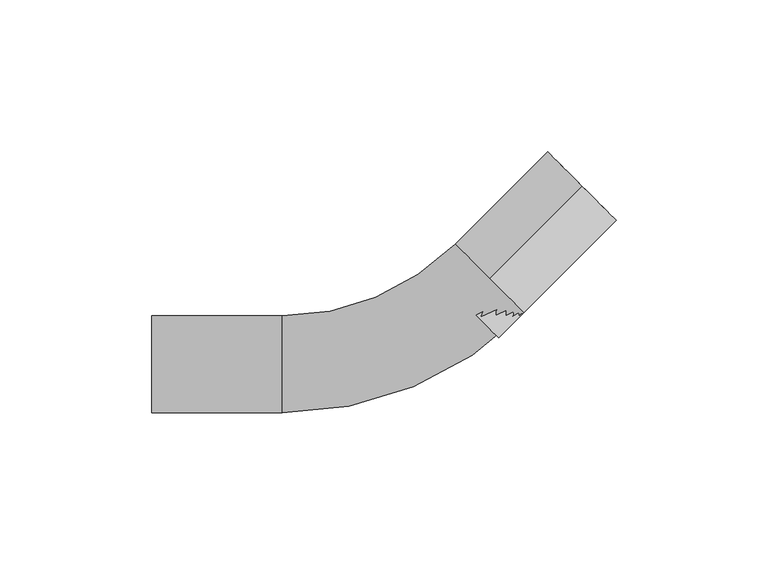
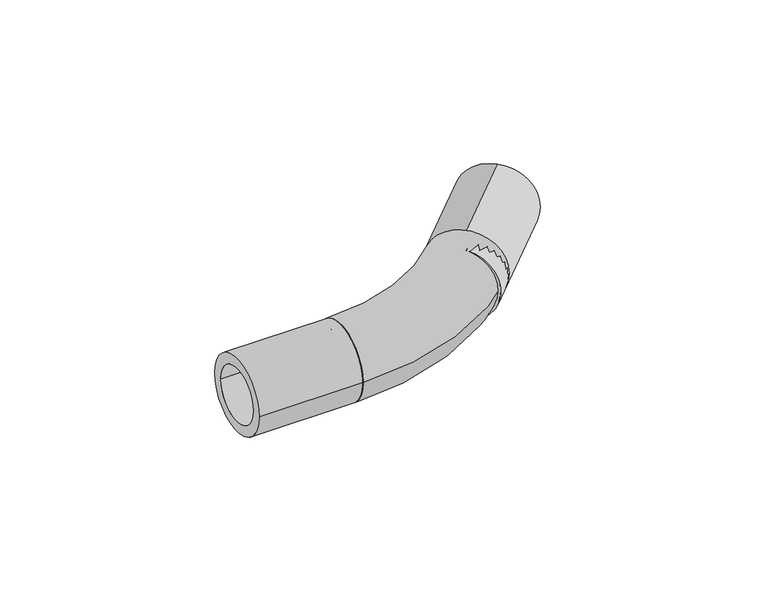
"""IFC4 building model written with IfcOpenShell, lengths in millimetres: pipe fitting geometry, REHAU_RAUTITAN_Pipe bend with former : REHAU_RAUTITAN_Pipe bend with former."""

import ifcopenshell
import ifcopenshell.guid

model = None  # the IFC model being written
_history = None  # IfcOwnerHistory: only IFC2X3 demands one
_inside = {}  # id of a spatial element -> (the spatial element, [elements in it])
_under = {}  # id of a project, library or spatial element -> (it, [spatial elements below it])
_declared = {}  # id of a project -> (the project, [libraries it declares])
_typed = {}  # id of a type object -> (the type object, [elements of that type])
_made_of = {}  # id of a material, layer set ... -> (it, [elements and type objects made of it])


def new_model(schema):
    """Start an empty IFC model of exactly this schema.

    Asked for "IFC4X3", IfcOpenShell would pick the latest addendum, in which some entities
    have other attributes; the version numbers below select the first issue.
    IFC2X3 requires an IfcOwnerHistory on every rooted entity: one is made here for all.
    """
    global model, _history
    if schema == "IFC4X3":
        model = ifcopenshell.file(schema_version=(4, 3, 0, 0))
    else:
        model = ifcopenshell.file(schema=schema)
    _inside.clear()
    _under.clear()
    _declared.clear()
    _typed.clear()
    _made_of.clear()
    _history = None
    if model.schema == "IFC2X3":
        org = make("IfcOrganization", Name="unknown")
        user = make(
            "IfcPersonAndOrganization",
            ThePerson=make("IfcPerson", FamilyName="unknown"),
            TheOrganization=org,
        )
        app = make(
            "IfcApplication",
            ApplicationDeveloper=org,
            Version="unknown",
            ApplicationFullName="unknown",
            ApplicationIdentifier="unknown",
        )
        _history = make(
            "IfcOwnerHistory",
            OwningUser=user,
            OwningApplication=app,
            ChangeAction="ADDED",
            CreationDate=0,
        )
    return model


def make(cls, **values):
    """One entity of the class cls with the attributes given. An attribute that is None is left unset."""
    return model.create_entity(
        cls, **{name: value for name, value in values.items() if value is not None}
    )


def rooted(cls, **values):
    """An entity with a GlobalId (a new one), such as an element, a storey or a relation."""
    return make(cls, GlobalId=ifcopenshell.guid.new(), OwnerHistory=_history, **values)


def si_unit(unit_type, name, prefix=None):
    """IfcSIUnit, for example si_unit("LENGTHUNIT", "METRE", prefix="MILLI")."""
    return make("IfcSIUnit", UnitType=unit_type, Prefix=prefix, Name=name)


def assignment(units):
    """IfcUnitAssignment: the units of a project."""
    return None if units is None else make("IfcUnitAssignment", Units=units)


def point(xyz):
    """IfcCartesianPoint."""
    return None if xyz is None else make("IfcCartesianPoint", Coordinates=xyz)


def direction(xyz):
    """IfcDirection."""
    return None if xyz is None else make("IfcDirection", DirectionRatios=xyz)


def frame(location, z_axis=None, x_axis=None):
    """IfcAxis2Placement3D, a coordinate frame: its origin and axes. An axis left out is left unset."""
    return make(
        "IfcAxis2Placement3D",
        Location=point(location),
        Axis=direction(z_axis),
        RefDirection=direction(x_axis),
    )


def frame_2d(location, x_axis=None):
    """IfcAxis2Placement2D, a coordinate frame in the plane: its origin and x axis."""
    return make(
        "IfcAxis2Placement2D", Location=point(location), RefDirection=direction(x_axis)
    )


def origin():
    """The frame at (0, 0, 0) with its axes left unset."""
    return frame((0.0, 0.0, 0.0))


def origin_2d():
    """The frame at (0, 0) in the plane with its x axis left unset."""
    return frame_2d((0.0, 0.0))


def place(relative_to, where):
    """IfcLocalPlacement: puts the frame where relative to a parent placement (None: the world)."""
    return make(
        "IfcLocalPlacement", PlacementRelTo=relative_to, RelativePlacement=where
    )


def context(
    kind, dimensions, precision=None, world=None, true_north=None, identifier=None
):
    """IfcGeometricRepresentationContext, for example the 3D "Model" context."""
    return make(
        "IfcGeometricRepresentationContext",
        ContextIdentifier=identifier,
        ContextType=kind,
        CoordinateSpaceDimension=dimensions,
        Precision=precision,
        WorldCoordinateSystem=world,
        TrueNorth=true_north,
    )


def project(units=None, contexts=None):
    """IfcProject with its units and contexts."""
    return rooted(
        "IfcProject",
        Name="project",
        RepresentationContexts=contexts,
        UnitsInContext=assignment(units),
    )


def spatial(cls, under=None, at=None, **own):
    """A site, building, storey or space (cls), placed at a placement, below another one or the project."""
    s = rooted(cls, ObjectPlacement=at, **own)
    if under is not None:
        _under.setdefault(under.id(), (under, []))[1].append(s)
    return s


def circle_curve(where, radius):
    """IfcCircle in the frame where."""
    return make("IfcCircle", Position=where, Radius=radius)


def ellipse_curve(where, semi_axis1, semi_axis2):
    """IfcEllipse in the frame where."""
    return make(
        "IfcEllipse", Position=where, SemiAxis1=semi_axis1, SemiAxis2=semi_axis2
    )


def trimmed(basis, trim1, trim2, sense, master):
    """IfcTrimmedCurve: the piece of a basis curve between two trims."""
    return make(
        "IfcTrimmedCurve",
        BasisCurve=basis,
        Trim1=trim1,
        Trim2=trim2,
        SenseAgreement=sense,
        MasterRepresentation=master,
    )


def segment(curve, same_sense, transition):
    """IfcCompositeCurveSegment."""
    return make(
        "IfcCompositeCurveSegment",
        Transition=transition,
        SameSense=same_sense,
        ParentCurve=curve,
    )


def composite_curve(segments, self_intersect=None):
    """IfcCompositeCurve: segments joined end to end."""
    return make("IfcCompositeCurve", Segments=segments, SelfIntersect=self_intersect)


def outline(outer, holes=None, kind="AREA"):
    """IfcArbitraryClosedProfileDef: a profile drawn as a closed curve; with holes, ...WithVoids."""
    if holes is None:
        return make("IfcArbitraryClosedProfileDef", ProfileType=kind, OuterCurve=outer)
    return make(
        "IfcArbitraryProfileDefWithVoids",
        ProfileType=kind,
        OuterCurve=outer,
        InnerCurves=holes,
    )


def extrude(swept, where, along, depth):
    """IfcExtrudedAreaSolid: the profile swept, set in the frame where, extruded along a direction by depth."""
    return make(
        "IfcExtrudedAreaSolid",
        SweptArea=swept,
        Position=where,
        ExtrudedDirection=direction(along),
        Depth=depth,
    )


def shape(context_of_items, identifier, shape_type, items):
    """IfcShapeRepresentation: the items that make up one representation, for example the "Body"."""
    return make(
        "IfcShapeRepresentation",
        ContextOfItems=context_of_items,
        RepresentationIdentifier=identifier,
        RepresentationType=shape_type,
        Items=items,
    )


def source(mapping_origin, context_of_items, identifier, shape_type, items):
    """IfcRepresentationMap: a shape defined once, which mapped items show again and again."""
    return make(
        "IfcRepresentationMap",
        MappingOrigin=mapping_origin,
        MappedRepresentation=shape(context_of_items, identifier, shape_type, items),
    )


def transform(
    local_origin,
    x_axis=None,
    y_axis=None,
    z_axis=None,
    scale=None,
    scale2=None,
    scale3=None,
    uniform=True,
):
    """IfcCartesianTransformationOperator3D, or its non-uniform kind. x_axis, y_axis, z_axis: its Axis1, 2, 3."""
    if uniform:
        return make(
            "IfcCartesianTransformationOperator3D",
            Axis1=direction(x_axis),
            Axis2=direction(y_axis),
            LocalOrigin=point(local_origin),
            Scale=scale,
            Axis3=direction(z_axis),
        )
    return make(
        "IfcCartesianTransformationOperator3DnonUniform",
        Axis1=direction(x_axis),
        Axis2=direction(y_axis),
        LocalOrigin=point(local_origin),
        Scale=scale,
        Axis3=direction(z_axis),
        Scale2=scale2,
        Scale3=scale3,
    )


def mapped(mapping_source, mapping_target):
    """IfcMappedItem: shows the shape of a source again, moved by a transform."""
    return make(
        "IfcMappedItem", MappingSource=mapping_source, MappingTarget=mapping_target
    )


def made_of(thing, what):
    """Note that an element or type object is made of a material, layer set ...; save() writes the relation."""
    if what is not None:
        _made_of.setdefault(what.id(), (what, []))[1].append(thing)
    return thing


def element(
    cls,
    number,
    at=None,
    inside=None,
    cuts=None,
    type_object=None,
    material=None,
    context=None,
    identifier="Body",
    shape_type=None,
    held_by="IfcProductDefinitionShape",
    body=None,
    shapes=None,
    **own,
):
    """One element of the class cls, such as IfcWall. Its Tag is "e" and its number.

    at: its placement. inside: the storey or other place that contains it. cuts: it is an
    opening in that element (IfcRelVoidsElement). A single representation is given by context,
    identifier, shape_type and body (its items); several are given by shapes. held_by: the class
    of the entity that holds the representations. save() writes the other relations.
    """
    e = rooted(cls, Tag="e%d" % number, ObjectPlacement=at, **own)
    if body is not None:
        shapes = [shape(context, identifier, shape_type, body)]
    if shapes is not None:
        e.Representation = make(held_by, Representations=shapes)
    if inside is not None:
        _inside.setdefault(inside.id(), (inside, []))[1].append(e)
    if cuts is not None:
        rooted(
            "IfcRelVoidsElement", RelatingBuildingElement=cuts, RelatedOpeningElement=e
        )
    if type_object is not None:
        _typed.setdefault(type_object.id(), (type_object, []))[1].append(e)
    return made_of(e, material)


def aggregate(whole, parts):
    """IfcRelAggregates: a whole, such as a stair, and the parts it consists of."""
    return rooted("IfcRelAggregates", RelatingObject=whole, RelatedObjects=parts)


def save(model, path):
    """Write the relations noted so far, then the file.

    IfcRelAggregates (storeys below a building ...), IfcRelContainedInSpatialStructure (elements
    in a storey), IfcRelDefinesByType, IfcRelAssociatesMaterial and IfcRelDeclares: one each for
    every whole, place, type object, material and project.
    """
    for whole, parts in _under.values():
        aggregate(whole, parts)
    for where, things in _inside.values():
        rooted(
            "IfcRelContainedInSpatialStructure",
            RelatedElements=things,
            RelatingStructure=where,
        )
    for kind, things in _typed.values():
        rooted("IfcRelDefinesByType", RelatedObjects=things, RelatingType=kind)
    for what, things in _made_of.values():
        rooted("IfcRelAssociatesMaterial", RelatedObjects=things, RelatingMaterial=what)
    for by, libraries in _declared.values():
        rooted("IfcRelDeclares", RelatingContext=by, RelatedDefinitions=libraries)
    model.write(path)


def plane_surface(at):
    """IfcPlane: the flat surface through the origin of the frame at, square to its z axis."""
    return make("IfcPlane", Position=at)


def revolved_surface(curve, axis_point, axis_direction):
    """IfcSurfaceOfRevolution: the curve turned about the line through axis_point along axis_direction."""
    return make(
        "IfcSurfaceOfRevolution",
        SweptCurve=make("IfcArbitraryOpenProfileDef", ProfileType="CURVE", Curve=curve),
        AxisPosition=make("IfcAxis1Placement", Location=point(axis_point), Axis=direction(axis_direction)),
    )


def advanced_brep(points, edges, surfaces, faces):
    """IfcAdvancedBrep: a solid bounded by faces that lie on surfaces and meet in shared edges.

    An edge is (start, end): straight between two places in points (the first is 0);
    or (start, end, curve); or (start, end, curve, False) where it runs against its curve.
    A face is (place in surfaces, loops), or (place, loops, False) where it looks against
    its surface's normal. A loop lists edges by number (the first is 1), with a minus sign
    where the edge is run from its end to its start. The first loop is the outer one.
    """
    corners = [point(p) for p in points]
    vertices = [make("IfcVertexPoint", VertexGeometry=c) for c in corners]
    made = []
    for start, end, *more in edges:
        made.append(
            make(
                "IfcEdgeCurve",
                EdgeStart=vertices[start],
                EdgeEnd=vertices[end],
                EdgeGeometry=more[0] if more else make("IfcPolyline", Points=[corners[start], corners[end]]),
                SameSense=more[1] if len(more) > 1 else True,
            )
        )
    hull = []
    for where, loops, *sense in faces:
        bounds = []
        for j, loop in enumerate(loops):
            ring = [make("IfcOrientedEdge", EdgeElement=made[abs(k) - 1], Orientation=k > 0) for k in loop]
            bounds.append(
                make(
                    "IfcFaceOuterBound" if j == 0 else "IfcFaceBound",
                    Bound=make("IfcEdgeLoop", EdgeList=ring),
                    Orientation=True,
                )
            )
        hull.append(make("IfcAdvancedFace", Bounds=bounds, FaceSurface=surfaces[where], SameSense=sense[0] if sense else True))
    return make("IfcAdvancedBrep", Outer=make("IfcClosedShell", CfsFaces=hull))


def pipe_fitting_35c14f72(model_context):
    return source(origin(), model_context, "Body", "SolidModel", [
        advanced_brep(
        [(-40.0, -16.0, 0.0), (-40.0, 16.0, 0.0), (-40.0, -11.6, 0.0), (-40.0, 11.6, 0.0), (39.5979797, 16.9705627, 0.0), (16.9705627, 39.5979797, 0.0), (36.4867099, 20.0818326, 0.0), (20.0818326, 36.4867099, 0.0)],
        [
            (0, 1, circle_curve(frame((-40.0, 0.0, 0.0), z_axis=(-1.0, 0.0, 0.0), x_axis=(0.0, 1.0, 0.0)), 16.0)),
            (1, 0, circle_curve(frame((-40.0, 0.0, 0.0), z_axis=(-1.0, 0.0, 0.0), x_axis=(0.0, 1.0, 0.0)), 16.0)),
            (2, 3, circle_curve(frame((-40.0, 0.0, 0.0), z_axis=(1.0, 0.0, 0.0), x_axis=(0.0, 1.0, 0.0)), 11.6)),
            (3, 2, circle_curve(frame((-40.0, 0.0, 0.0), z_axis=(1.0, 0.0, 0.0), x_axis=(0.0, 1.0, 0.0)), 11.6)),
            (4, 5, circle_curve(frame((28.2842712, 28.2842712, 0.0), z_axis=(0.7071067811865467, 0.7071067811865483, 0.0), x_axis=(-0.7071067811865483, 0.7071067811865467, 0.0)), 16.0)),
            (5, 4, circle_curve(frame((28.2842712, 28.2842712, 0.0), z_axis=(0.7071067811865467, 0.7071067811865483, 0.0), x_axis=(-0.7071067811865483, 0.7071067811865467, 0.0)), 16.0)),
            (6, 7, circle_curve(frame((28.2842712, 28.2842712, 0.0), z_axis=(-0.7071067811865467, -0.7071067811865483, 0.0), x_axis=(-0.7071067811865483, 0.7071067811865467, 0.0)), 11.6)),
            (7, 6, circle_curve(frame((28.2842712, 28.2842712, 0.0), z_axis=(-0.7071067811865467, -0.7071067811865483, 0.0), x_axis=(-0.7071067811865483, 0.7071067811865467, 0.0)), 11.6)),
            (5, 1, circle_curve(frame((-40.0, 96.5685425, 0.0), z_axis=(0.0, 0.0, -1.0), x_axis=(0.0, -1.0, 0.0)), 80.5685425)),
            (0, 4, circle_curve(frame((-40.0, 96.5685425, 0.0), z_axis=(0.0, 0.0, 1.0), x_axis=(0.0, -1.0, 0.0)), 112.5685425)),
            (7, 3, circle_curve(frame((-40.0, 96.5685425, 0.0), z_axis=(0.0, 0.0, -1.0), x_axis=(0.0, -1.0, 0.0)), 84.9685425)),
            (2, 6, circle_curve(frame((-40.0, 96.5685425, 0.0), z_axis=(0.0, 0.0, 1.0), x_axis=(0.0, -1.0, 0.0)), 108.1685425)),
        ],
        [
            plane_surface(frame((-40.0, 0.0, 0.0), z_axis=(-1.0, 0.0, 0.0), x_axis=(0.0, 0.0, 1.0))),
            plane_surface(frame((28.2842712, 28.2842712, 0.0), z_axis=(0.7071067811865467, 0.7071067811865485, 0.0), x_axis=(0.0, 0.0, 1.0))),
            revolved_surface(trimmed(ellipse_curve(frame((-40.0, 0.0, 0.0), z_axis=(-1.0, 0.0, 0.0), x_axis=(0.0, 1.0, 0.0)), 16.0, 16.0), [point((-40.0, -16.0, 0.0))], [point((-40.0, 16.0, 0.0))], True, "CARTESIAN"), (-40.0, 96.5685425, 0.0), (0.0, 0.0, 1.0)),
            revolved_surface(trimmed(ellipse_curve(frame((-40.0, 0.0, 0.0), z_axis=(-1.0, 0.0, 0.0), x_axis=(0.0, 1.0, 0.0)), 16.0, 16.0), [point((-40.0, 16.0, 0.0))], [point((-40.0, -16.0, 0.0))], True, "CARTESIAN"), (-40.0, 96.5685425, 0.0), (0.0, 0.0, 1.0)),
            revolved_surface(trimmed(ellipse_curve(frame((-40.0, 0.0, 0.0), z_axis=(1.0, 0.0, 0.0), x_axis=(0.0, 1.0, 0.0)), 11.6, 11.6), [point((-40.0, -11.6, 0.0))], [point((-40.0, 11.6, 0.0))], True, "CARTESIAN"), (-40.0, 96.5685425, 0.0), (0.0, 0.0, 1.0)),
            revolved_surface(trimmed(ellipse_curve(frame((-40.0, 0.0, 0.0), z_axis=(1.0, 0.0, 0.0), x_axis=(0.0, 1.0, 0.0)), 11.6, 11.6), [point((-40.0, 11.6, 0.0))], [point((-40.0, -11.6, 0.0))], True, "CARTESIAN"), (-40.0, 96.5685425, 0.0), (0.0, 0.0, 1.0)),
        ],
        [
            (0, [[1, 2], [3, 4]]),
            (1, [[5, 6], [7, 8]]),
            (2, [[9, -1, 10, -6]]),
            (3, [[-10, -2, -9, -5]]),
            (4, [[11, -3, 12, -8]]),
            (5, [[-12, -4, -11, -7]]),
        ],
    ),
        extrude(outline(composite_curve([segment(trimmed(circle_curve(origin_2d(), 16.0), [point((16.0, 0.0))], [point((-16.0, 0.0))], False, "CARTESIAN"), True, "CONTINUOUS"), segment(trimmed(circle_curve(origin_2d(), 16.0), [point((-16.0, 0.0))], [point((16.0, 0.0))], False, "CARTESIAN"), True, "CONTINUOUS")], self_intersect=False), holes=[composite_curve([segment(trimmed(circle_curve(origin_2d(), 11.6), [point((11.6, 0.0))], [point((-11.6, 0.0))], True, "CARTESIAN"), True, "CONTINUOUS"), segment(trimmed(circle_curve(origin_2d(), 11.6), [point((-11.6, 0.0))], [point((11.6, 0.0))], True, "CARTESIAN"), True, "CONTINUOUS")], self_intersect=False)]), frame((-83.0, 0.0, 0.0), z_axis=(1.0, 0.0, 0.0), x_axis=(0.0, 1.0, 0.0)), (0.0, 0.0, 1.0), 43.0),
        extrude(outline(composite_curve([segment(trimmed(circle_curve(frame_2d((0.0, -16.0)), 16.0), [point((0.0, -32.0))], [point((0.0, 0.0))], False, "CARTESIAN"), True, "CONTINUOUS"), segment(trimmed(circle_curve(frame_2d((0.0, -16.0)), 16.0), [point((0.0, 0.0))], [point((0.0, -32.0))], False, "CARTESIAN"), True, "CONTINUOUS")], self_intersect=False), holes=[composite_curve([segment(trimmed(circle_curve(frame_2d((0.0, -16.0)), 11.6), [point((0.0, -27.6))], [point((0.0, -4.4))], True, "CARTESIAN"), True, "CONTINUOUS"), segment(trimmed(circle_curve(frame_2d((0.0, -16.0)), 11.6), [point((0.0, -4.4))], [point((0.0, -27.6))], True, "CARTESIAN"), True, "CONTINUOUS")], self_intersect=False)]), frame((20.0, 20.0, 16.0), z_axis=(0.7071067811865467, 0.7071067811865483, 0.0), x_axis=(-0.7071067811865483, 0.7071067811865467, 0.0)), (0.0, 0.0, 1.0), 54.7157288),
    ])


if __name__ == "__main__":
    model = new_model("IFC4")
    model_context = context("Model", 3, world=origin())
    ifc_project = project(units=[si_unit("LENGTHUNIT", "METRE", prefix="MILLI")], contexts=[model_context])
    site = spatial("IfcSite", under=ifc_project)
    building = spatial("IfcBuilding", under=site)
    placement = place(None, origin())
    pipe_fitting_shape = pipe_fitting_35c14f72(model_context)
    element("IfcPipeFitting", 1, ObjectType="REHAU_RAUTITAN_Pipe bend with former : REHAU_RAUTITAN_Pipe bend with former", at=placement, inside=building, context=model_context, shape_type="MappedRepresentation", body=[
        mapped(pipe_fitting_shape, transform((0.0, 0.0, 0.0), x_axis=(1.0, 0.0, 0.0), y_axis=(0.0, 1.0, 0.0), z_axis=(0.0, 0.0, 1.0))),
    ])
    save(model, "model.ifc")
